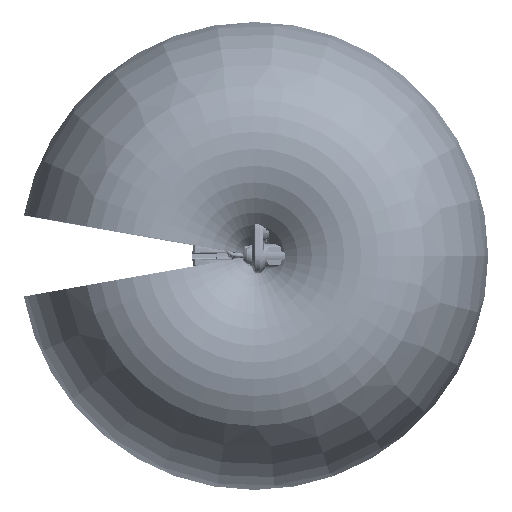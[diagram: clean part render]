
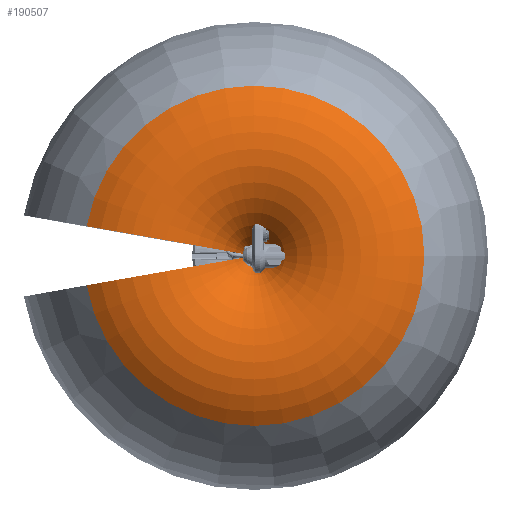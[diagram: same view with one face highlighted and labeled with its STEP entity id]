
A CAD part, top view. The second image highlights one B-rep face of the part: STEP entity #190507.
In plain terms, the highlighted toroidal (fillet/blend) face has major radius 1313.6 mm and minor radius 1295 mm.
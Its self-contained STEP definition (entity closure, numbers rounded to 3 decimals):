
#10847 = DIRECTION ( 'NONE',  ( 0., 0., 1. ) ) ;
#21261 = EDGE_CURVE ( 'NONE', #331992, #207073, #317264, .T. ) ;
#28438 = AXIS2_PLACEMENT_3D ( 'NONE', #280723, #92965, #329856 ) ;
#28519 = CIRCLE ( 'NONE', #146046, 1295. ) ;
#45509 = CARTESIAN_POINT ( 'NONE',  ( -137.802, -24.298, 2320.252 ) ) ;
#48837 = DIRECTION ( 'NONE',  ( -1., 0., 0. ) ) ;
#54014 = EDGE_CURVE ( 'NONE', #207073, #365163, #505578, .T. ) ;
#77588 = ORIENTED_EDGE ( 'NONE', *, *, #21261, .T. ) ;
#92965 = DIRECTION ( 'NONE',  ( 0., 0., -1. ) ) ;
#97186 = CIRCLE ( 'NONE', #28438, 2110.879 ) ;
#116854 = DIRECTION ( 'NONE',  ( -1., 0., 0. ) ) ;
#119923 = DIRECTION ( 'NONE',  ( 0., 0., -1. ) ) ;
#142291 = AXIS2_PLACEMENT_3D ( 'NONE', #144158, #331789, #48837 ) ;
#144158 = CARTESIAN_POINT ( 'NONE',  ( 0., 0., 1772.964 ) ) ;
#146046 = AXIS2_PLACEMENT_3D ( 'NONE', #501275, #160053, #544394 ) ;
#160053 = DIRECTION ( 'NONE',  ( -0.174, 0.985, 0. ) ) ;
#164903 = EDGE_CURVE ( 'NONE', #202223, #365163, #28519, .T. ) ;
#186142 = CARTESIAN_POINT ( 'NONE',  ( -2078.81, 366.55, 2793.438 ) ) ;
#190507 = ADVANCED_FACE ( 'NONE', ( #568779 ), #407718, .T. ) ;
#202223 = VERTEX_POINT ( 'NONE', #559343 ) ;
#207073 = VERTEX_POINT ( 'NONE', #253150 ) ;
#209288 = AXIS2_PLACEMENT_3D ( 'NONE', #435415, #524511, #10847 ) ;
#253150 = CARTESIAN_POINT ( 'NONE',  ( -137.802, 24.298, 2320.252 ) ) ;
#280723 = CARTESIAN_POINT ( 'NONE',  ( 0., 0., 2793.438 ) ) ;
#289484 = AXIS2_PLACEMENT_3D ( 'NONE', #584627, #119923, #116854 ) ;
#317264 = CIRCLE ( 'NONE', #209288, 1295. ) ;
#329486 = EDGE_LOOP ( 'NONE', ( #394049, #77588, #516453, #471088 ) ) ;
#329856 = DIRECTION ( 'NONE',  ( -1., 0., 0. ) ) ;
#331789 = DIRECTION ( 'NONE',  ( 0., 0., -1. ) ) ;
#331992 = VERTEX_POINT ( 'NONE', #186142 ) ;
#365163 = VERTEX_POINT ( 'NONE', #45509 ) ;
#394049 = ORIENTED_EDGE ( 'NONE', *, *, #564335, .F. ) ;
#407718 = TOROIDAL_SURFACE ( 'NONE', #142291, 1313.598, 1295. ) ;
#435415 = CARTESIAN_POINT ( 'NONE',  ( -1293.641, 228.104, 1772.964 ) ) ;
#471088 = ORIENTED_EDGE ( 'NONE', *, *, #164903, .F. ) ;
#501275 = CARTESIAN_POINT ( 'NONE',  ( -1293.641, -228.104, 1772.964 ) ) ;
#505578 = CIRCLE ( 'NONE', #289484, 139.928 ) ;
#516453 = ORIENTED_EDGE ( 'NONE', *, *, #54014, .T. ) ;
#524511 = DIRECTION ( 'NONE',  ( 0.174, 0.985, 0. ) ) ;
#544394 = DIRECTION ( 'NONE',  ( 0., 0., 1. ) ) ;
#559343 = CARTESIAN_POINT ( 'NONE',  ( -2078.81, -366.55, 2793.438 ) ) ;
#564335 = EDGE_CURVE ( 'NONE', #331992, #202223, #97186, .T. ) ;
#568779 = FACE_OUTER_BOUND ( 'NONE', #329486, .T. ) ;
#584627 = CARTESIAN_POINT ( 'NONE',  ( 0., 0., 2320.252 ) ) ;
